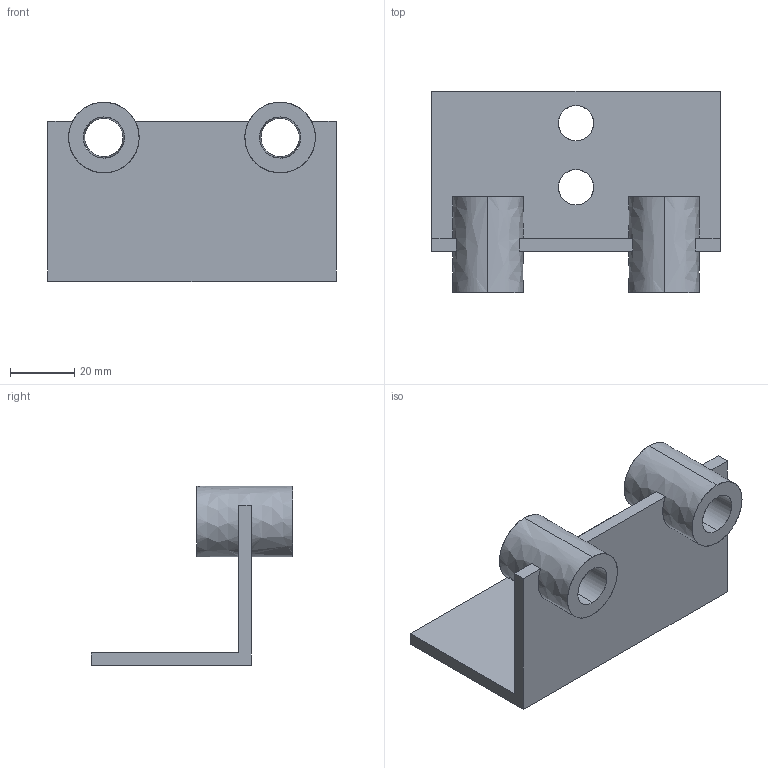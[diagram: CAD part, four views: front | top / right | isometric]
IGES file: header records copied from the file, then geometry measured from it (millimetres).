
Global section: file name: E:\UnigraphicsGraphicData\MISUMI_PRESS-PARTS\IGES\3d_tahk-b-3_01845_r00.igs; native system: NX V5.0; preprocessor: UGS NX IGES V5.0; author: MISUMI; date: 20110105.163348; units: millimetre
Bounding box: 90 x 63 x 56 mm (x, y, z)
Surface area: 24440.9 mm2 (no closed solid volume)
Topology: 0 solids, 0 shells, 38 faces, 292 edges, 292 vertices
Faces by surface type: bspline 38
